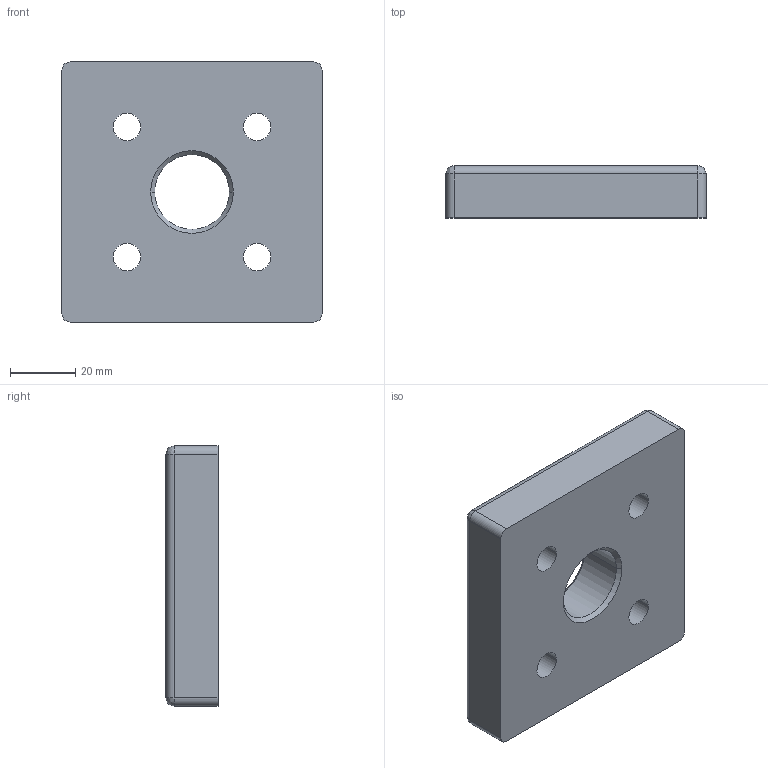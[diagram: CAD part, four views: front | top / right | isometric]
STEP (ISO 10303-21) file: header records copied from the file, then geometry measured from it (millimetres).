
FILE_DESCRIPTION (( 'STEP AP203' ), '1' );
FILE_NAME ('10151_FUS8080R1.STEP', '2018-05-24T10:52:01', ( '' ), ( '' ), 'SwSTEP 2.0', 'SolidWorks 2017', '' );
FILE_SCHEMA (( 'CONFIG_CONTROL_DESIGN' ));
Length unit declared in the file: millimetre
Products named in the file (1): 10151_FUS8080R1
Bounding box: 80 x 16 x 80 mm (x, y, z)
Volume: 88629.2 mm3; surface area: 19471.5 mm2
Topology: 1 solids, 1 shells, 44 faces, 104 edges, 62 vertices
Faces by surface type: cylinder 26, plane 10, cone 4, bspline 4
Entity records: 1391 total; most frequent: CARTESIAN_POINT 267, DIRECTION 240, ORIENTED_EDGE 200, EDGE_CURVE 100, AXIS2_PLACEMENT_3D 99, VERTEX_POINT 62, EDGE_LOOP 58, CIRCLE 58
